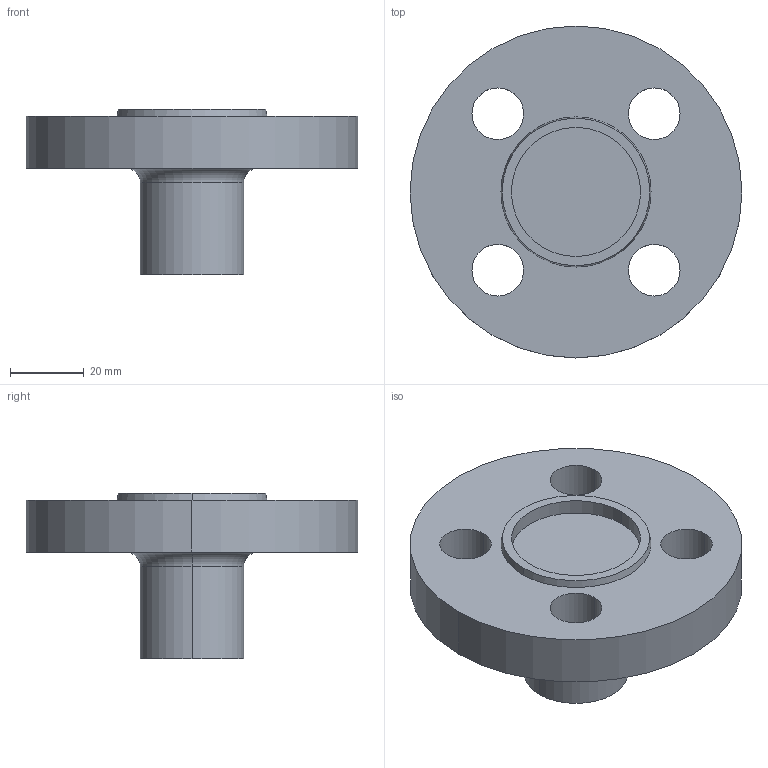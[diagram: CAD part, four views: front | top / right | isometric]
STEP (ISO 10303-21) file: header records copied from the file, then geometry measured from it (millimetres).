
FILE_DESCRIPTION (( 'STEP AP214' ), '1' );
FILE_NAME ('PN40 DN10 Type 21(i) - Type F Face.STEP', '2018-12-29T05:07:28', ( '' ), ( '' ), 'SwSTEP 2.0', 'SolidWorks 2019', '' );
FILE_SCHEMA (( 'AUTOMOTIVE_DESIGN' ));
Length unit declared in the file: millimetre
Products named in the file (1): PN40 DN10 Type 21(i) - Type F Face
Bounding box: 90 x 90 x 45 mm (x, y, z)
Volume: 97331.1 mm3; surface area: 20973 mm2
Topology: 1 solids, 1 shells, 23 faces, 52 edges, 34 vertices
Faces by surface type: cylinder 14, plane 5, torus 2, cone 2
Entity records: 716 total; most frequent: DIRECTION 136, CARTESIAN_POINT 110, ORIENTED_EDGE 104, AXIS2_PLACEMENT_3D 60, EDGE_CURVE 52, CIRCLE 36, EDGE_LOOP 34, VERTEX_POINT 34
